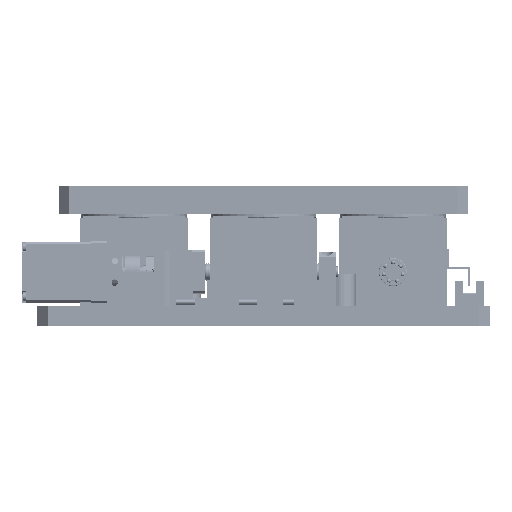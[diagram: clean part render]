
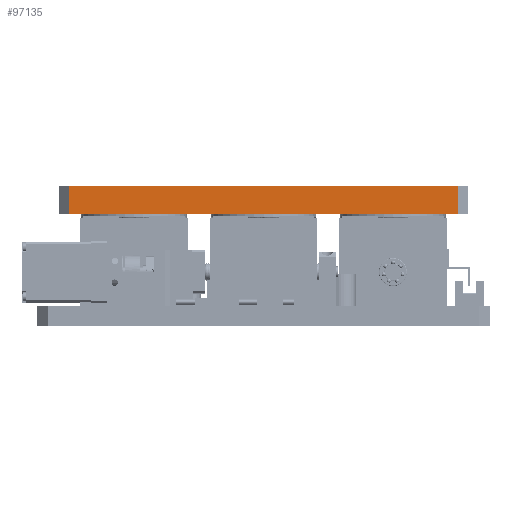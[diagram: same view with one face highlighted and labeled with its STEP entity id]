
A CAD part, top view. The second image highlights one B-rep face of the part: STEP entity #97135.
In plain terms, the highlighted planar face has unit normal (0, 0, 1).
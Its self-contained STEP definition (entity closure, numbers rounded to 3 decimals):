
#3479 = VECTOR ( 'NONE', #51296, 1000. ) ;
#6825 = AXIS2_PLACEMENT_3D ( 'NONE', #98300, #79613, #53332 ) ;
#10016 = FACE_OUTER_BOUND ( 'NONE', #45755, .T. ) ;
#20598 = VERTEX_POINT ( 'NONE', #90184 ) ;
#21214 = ORIENTED_EDGE ( 'NONE', *, *, #93257, .F. ) ;
#23104 = VECTOR ( 'NONE', #77046, 1000. ) ;
#23327 = VECTOR ( 'NONE', #87600, 1000. ) ;
#28162 = CARTESIAN_POINT ( 'NONE',  ( -90., 65., 95. ) ) ;
#35567 = LINE ( 'NONE', #43199, #23327 ) ;
#37501 = ORIENTED_EDGE ( 'NONE', *, *, #54523, .T. ) ;
#40290 = LINE ( 'NONE', #50802, #110847 ) ;
#40867 = CARTESIAN_POINT ( 'NONE',  ( 0., 65., 95. ) ) ;
#41998 = ORIENTED_EDGE ( 'NONE', *, *, #107804, .T. ) ;
#43095 = CARTESIAN_POINT ( 'NONE',  ( -90., 52., 95. ) ) ;
#43199 = CARTESIAN_POINT ( 'NONE',  ( 90., 52., 95. ) ) ;
#45755 = EDGE_LOOP ( 'NONE', ( #41998, #21214, #104591, #37501 ) ) ;
#50802 = CARTESIAN_POINT ( 'NONE',  ( 90., 52., 95. ) ) ;
#51296 = DIRECTION ( 'NONE',  ( 0., -1., 0. ) ) ;
#51381 = LINE ( 'NONE', #40867, #23104 ) ;
#53332 = DIRECTION ( 'NONE',  ( 1., 0., 0. ) ) ;
#54523 = EDGE_CURVE ( 'NONE', #99644, #98141, #51381, .T. ) ;
#56931 = CARTESIAN_POINT ( 'NONE',  ( 90., 52., 95. ) ) ;
#57582 = VERTEX_POINT ( 'NONE', #56931 ) ;
#63232 = PLANE ( 'NONE',  #6825 ) ;
#77046 = DIRECTION ( 'NONE',  ( -1., 0., 0. ) ) ;
#77556 = LINE ( 'NONE', #43095, #3479 ) ;
#79613 = DIRECTION ( 'NONE',  ( 0., 0., -1. ) ) ;
#81219 = CARTESIAN_POINT ( 'NONE',  ( 90., 65., 95. ) ) ;
#87600 = DIRECTION ( 'NONE',  ( 0., -1., 0. ) ) ;
#90184 = CARTESIAN_POINT ( 'NONE',  ( -90., 52., 95. ) ) ;
#93257 = EDGE_CURVE ( 'NONE', #57582, #20598, #40290, .T. ) ;
#94363 = EDGE_CURVE ( 'NONE', #99644, #57582, #35567, .T. ) ;
#97135 = ADVANCED_FACE ( 'NONE', ( #10016 ), #63232, .F. ) ;
#98141 = VERTEX_POINT ( 'NONE', #28162 ) ;
#98300 = CARTESIAN_POINT ( 'NONE',  ( 90., 52., 95. ) ) ;
#99644 = VERTEX_POINT ( 'NONE', #81219 ) ;
#104591 = ORIENTED_EDGE ( 'NONE', *, *, #94363, .F. ) ;
#107804 = EDGE_CURVE ( 'NONE', #98141, #20598, #77556, .T. ) ;
#110847 = VECTOR ( 'NONE', #112744, 1000. ) ;
#112744 = DIRECTION ( 'NONE',  ( -1., 0., 0. ) ) ;
